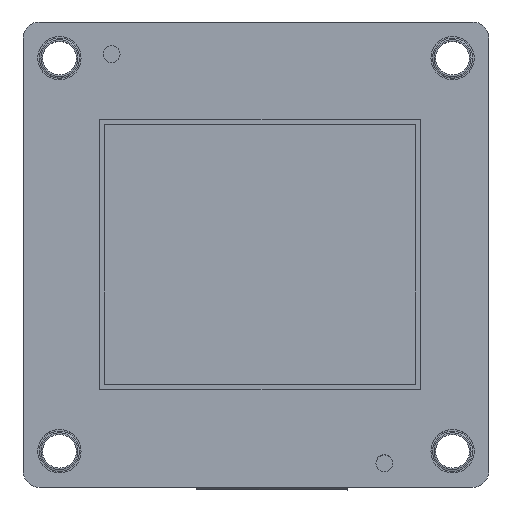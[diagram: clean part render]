
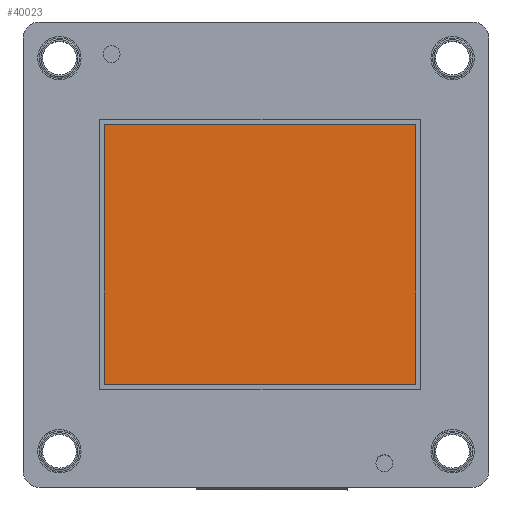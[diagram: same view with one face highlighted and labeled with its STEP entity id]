
A CAD part, top view. The second image highlights one B-rep face of the part: STEP entity #40023.
In plain terms, the highlighted planar face has unit normal (0, 0, 1).
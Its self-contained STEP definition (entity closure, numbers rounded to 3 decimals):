
#14 = EDGE_CURVE ( 'NONE', #47692, #2279, #13342, .T. ) ;
#1806 = DIRECTION ( 'NONE',  ( 1., 0., 0. ) ) ;
#2023 = DIRECTION ( 'NONE',  ( -1., 0., 0. ) ) ;
#2279 = VERTEX_POINT ( 'NONE', #21205 ) ;
#3739 = CARTESIAN_POINT ( 'NONE',  ( 14.5, 14.5, 7.3 ) ) ;
#4597 = ORIENTED_EDGE ( 'NONE', *, *, #29614, .T. ) ;
#6190 = VECTOR ( 'NONE', #7278, 1000. ) ;
#7278 = DIRECTION ( 'NONE',  ( 0., 1., 0. ) ) ;
#11144 = VECTOR ( 'NONE', #1806, 1000. ) ;
#12940 = CARTESIAN_POINT ( 'NONE',  ( 5.049, 6.415, 7.3 ) ) ;
#13030 = VECTOR ( 'NONE', #2023, 1000. ) ;
#13342 = LINE ( 'NONE', #34052, #6190 ) ;
#14809 = EDGE_LOOP ( 'NONE', ( #21650, #33920, #41550, #4597 ) ) ;
#20292 = VERTEX_POINT ( 'NONE', #24377 ) ;
#21205 = CARTESIAN_POINT ( 'NONE',  ( 24.449, 22.615, 7.3 ) ) ;
#21650 = ORIENTED_EDGE ( 'NONE', *, *, #47485, .T. ) ;
#22223 = CARTESIAN_POINT ( 'NONE',  ( 24.449, 6.415, 7.3 ) ) ;
#24377 = CARTESIAN_POINT ( 'NONE',  ( 5.049, 22.615, 7.3 ) ) ;
#24763 = EDGE_CURVE ( 'NONE', #28765, #47692, #31383, .T. ) ;
#26121 = AXIS2_PLACEMENT_3D ( 'NONE', #3739, #30530, #30371 ) ;
#28765 = VERTEX_POINT ( 'NONE', #44628 ) ;
#29614 = EDGE_CURVE ( 'NONE', #2279, #20292, #44545, .T. ) ;
#30371 = DIRECTION ( 'NONE',  ( -1., 0., 0. ) ) ;
#30530 = DIRECTION ( 'NONE',  ( 0., 0., -1. ) ) ;
#31383 = LINE ( 'NONE', #35262, #11144 ) ;
#32419 = VECTOR ( 'NONE', #39209, 1000. ) ;
#33920 = ORIENTED_EDGE ( 'NONE', *, *, #24763, .T. ) ;
#34052 = CARTESIAN_POINT ( 'NONE',  ( 24.449, 6.415, 7.3 ) ) ;
#34608 = FACE_OUTER_BOUND ( 'NONE', #14809, .T. ) ;
#35262 = CARTESIAN_POINT ( 'NONE',  ( 5.049, 6.415, 7.3 ) ) ;
#38999 = CARTESIAN_POINT ( 'NONE',  ( 5.049, 22.615, 7.3 ) ) ;
#39209 = DIRECTION ( 'NONE',  ( 0., -1., 0. ) ) ;
#40023 = ADVANCED_FACE ( 'NONE', ( #34608 ), #49355, .F. ) ;
#41550 = ORIENTED_EDGE ( 'NONE', *, *, #14, .T. ) ;
#44381 = LINE ( 'NONE', #12940, #32419 ) ;
#44545 = LINE ( 'NONE', #38999, #13030 ) ;
#44628 = CARTESIAN_POINT ( 'NONE',  ( 5.049, 6.415, 7.3 ) ) ;
#47485 = EDGE_CURVE ( 'NONE', #20292, #28765, #44381, .T. ) ;
#47692 = VERTEX_POINT ( 'NONE', #22223 ) ;
#49355 = PLANE ( 'NONE',  #26121 ) ;
